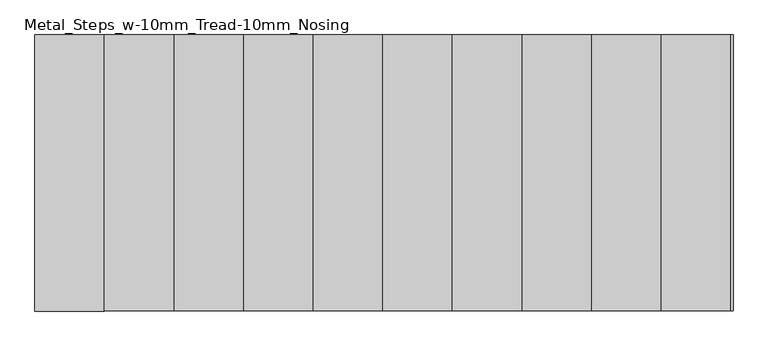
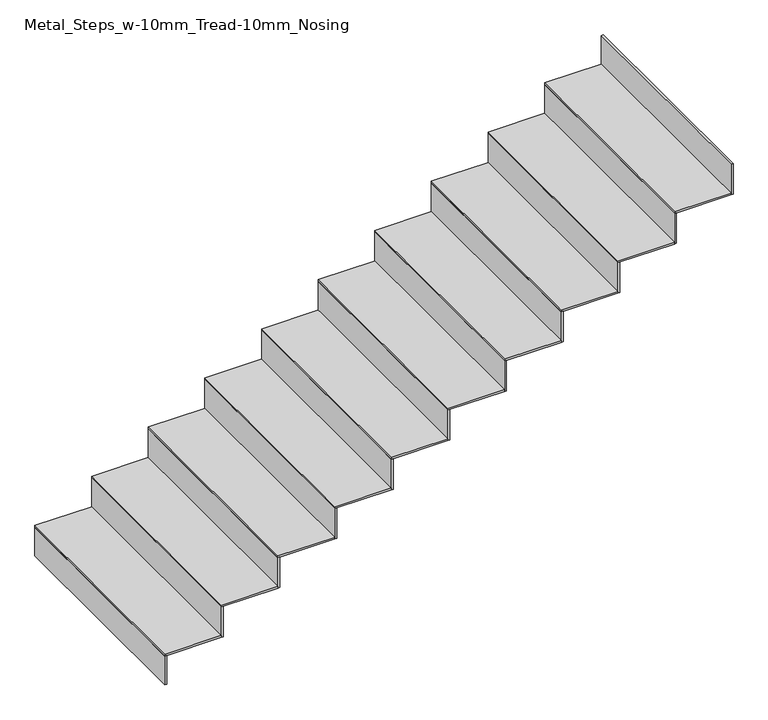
"""IFC4 building model written with IfcOpenShell, lengths in millimetres: stair flight geometry, Metal_Steps_w-10mm_Tread-10mm_Nosing."""

from ifc_helpers import new_model, si_unit, frame, origin, place, context, project, spatial, polyline, outline, extrude, source, transform, mapped, element, save


def metal_steps_w_10mm_tread_10mm_nosing_9ce4fc9e(model_context):
    return source(origin(), model_context, "Body", "SweptSolid", [
        extrude(outline(polyline([(-791.4958562, -4544.3473686), (-801.4958562, -4544.3473686), (-801.4958562, -3354.3473686), (-791.4958562, -3354.3473686), (-791.4958562, -4544.3473686)])), frame((0.0, 0.0, 15010.0), z_axis=(0.0, 0.0, 1.0), x_axis=(1.0, 0.0, 0.0)), (0.0, 0.0, 1.0), 160.4545455),
        extrude(outline(polyline([(-501.4958562, -3354.3473686), (-501.4958562, -4544.3473686), (-801.4958562, -4544.3473686), (-801.4958562, -3354.3473686), (-501.4958562, -3354.3473686)])), frame((0.0, 0.0, 15170.4545455), z_axis=(0.0, 0.0, 1.0), x_axis=(1.0, 0.0, 0.0)), (0.0, 0.0, 1.0), 10.0),
        extrude(outline(polyline([(-491.4958562, -4544.3473686), (-501.4958562, -4544.3473686), (-501.4958562, -3354.3473686), (-491.4958562, -3354.3473686), (-491.4958562, -4544.3473686)])), frame((0.0, 0.0, 15170.4545455), z_axis=(0.0, 0.0, 1.0), x_axis=(1.0, 0.0, 0.0)), (0.0, 0.0, 1.0), 170.4545455),
        extrude(outline(polyline([(-201.4958562, -3354.3473686), (-201.4958562, -4544.3473686), (-501.4958562, -4544.3473686), (-501.4958562, -3354.3473686), (-201.4958562, -3354.3473686)])), frame((0.0, 0.0, 15340.9090909), z_axis=(0.0, 0.0, 1.0), x_axis=(1.0, 0.0, 0.0)), (0.0, 0.0, 1.0), 10.0),
        extrude(outline(polyline([(-191.4958562, -4544.3473686), (-201.4958562, -4544.3473686), (-201.4958562, -3354.3473686), (-191.4958562, -3354.3473686), (-191.4958562, -4544.3473686)])), frame((0.0, 0.0, 15340.9090909), z_axis=(0.0, 0.0, 1.0), x_axis=(1.0, 0.0, 0.0)), (0.0, 0.0, 1.0), 170.4545455),
        extrude(outline(polyline([(98.5041438, -3354.3473686), (98.5041438, -4544.3473686), (-201.4958562, -4544.3473686), (-201.4958562, -3354.3473686), (98.5041438, -3354.3473686)])), frame((0.0, 0.0, 15511.3636364), z_axis=(0.0, 0.0, 1.0), x_axis=(1.0, 0.0, 0.0)), (0.0, 0.0, 1.0), 10.0),
        extrude(outline(polyline([(108.5041438, -4544.3473686), (98.5041438, -4544.3473686), (98.5041438, -3354.3473686), (108.5041438, -3354.3473686), (108.5041438, -4544.3473686)])), frame((0.0, 0.0, 15511.3636364), z_axis=(0.0, 0.0, 1.0), x_axis=(1.0, 0.0, 0.0)), (0.0, 0.0, 1.0), 170.4545455),
        extrude(outline(polyline([(398.5041438, -3354.3473686), (398.5041438, -4544.3473686), (98.5041438, -4544.3473686), (98.5041438, -3354.3473686), (398.5041438, -3354.3473686)])), frame((0.0, 0.0, 15681.8181818), z_axis=(0.0, 0.0, 1.0), x_axis=(1.0, 0.0, 0.0)), (0.0, 0.0, 1.0), 10.0),
        extrude(outline(polyline([(408.5041438, -4544.3473686), (398.5041438, -4544.3473686), (398.5041438, -3354.3473686), (408.5041438, -3354.3473686), (408.5041438, -4544.3473686)])), frame((0.0, 0.0, 15681.8181818), z_axis=(0.0, 0.0, 1.0), x_axis=(1.0, 0.0, 0.0)), (0.0, 0.0, 1.0), 170.4545455),
        extrude(outline(polyline([(698.5041438, -3354.3473686), (698.5041438, -4544.3473686), (398.5041438, -4544.3473686), (398.5041438, -3354.3473686), (698.5041438, -3354.3473686)])), frame((0.0, 0.0, 15852.2727273), z_axis=(0.0, 0.0, 1.0), x_axis=(1.0, 0.0, 0.0)), (0.0, 0.0, 1.0), 10.0),
        extrude(outline(polyline([(708.5041438, -4544.3473686), (698.5041438, -4544.3473686), (698.5041438, -3354.3473686), (708.5041438, -3354.3473686), (708.5041438, -4544.3473686)])), frame((0.0, 0.0, 15852.2727273), z_axis=(0.0, 0.0, 1.0), x_axis=(1.0, 0.0, 0.0)), (0.0, 0.0, 1.0), 170.4545455),
        extrude(outline(polyline([(998.5041438, -3354.3473686), (998.5041438, -4544.3473686), (698.5041438, -4544.3473686), (698.5041438, -3354.3473686), (998.5041438, -3354.3473686)])), frame((0.0, 0.0, 16022.7272727), z_axis=(0.0, 0.0, 1.0), x_axis=(1.0, 0.0, 0.0)), (0.0, 0.0, 1.0), 10.0),
        extrude(outline(polyline([(1008.5041438, -4544.3473686), (998.5041438, -4544.3473686), (998.5041438, -3354.3473686), (1008.5041438, -3354.3473686), (1008.5041438, -4544.3473686)])), frame((0.0, 0.0, 16022.7272727), z_axis=(0.0, 0.0, 1.0), x_axis=(1.0, 0.0, 0.0)), (0.0, 0.0, 1.0), 170.4545455),
        extrude(outline(polyline([(1298.5041438, -3354.3473686), (1298.5041438, -4544.3473686), (998.5041438, -4544.3473686), (998.5041438, -3354.3473686), (1298.5041438, -3354.3473686)])), frame((0.0, 0.0, 16193.1818182), z_axis=(0.0, 0.0, 1.0), x_axis=(1.0, 0.0, 0.0)), (0.0, 0.0, 1.0), 10.0),
        extrude(outline(polyline([(1308.5041438, -4544.3473686), (1298.5041438, -4544.3473686), (1298.5041438, -3354.3473686), (1308.5041438, -3354.3473686), (1308.5041438, -4544.3473686)])), frame((0.0, 0.0, 16193.1818182), z_axis=(0.0, 0.0, 1.0), x_axis=(1.0, 0.0, 0.0)), (0.0, 0.0, 1.0), 170.4545455),
        extrude(outline(polyline([(1598.5041438, -3354.3473686), (1598.5041438, -4544.3473686), (1298.5041438, -4544.3473686), (1298.5041438, -3354.3473686), (1598.5041438, -3354.3473686)])), frame((0.0, 0.0, 16363.6363636), z_axis=(0.0, 0.0, 1.0), x_axis=(1.0, 0.0, 0.0)), (0.0, 0.0, 1.0), 10.0),
        extrude(outline(polyline([(1608.5041438, -4544.3473686), (1598.5041438, -4544.3473686), (1598.5041438, -3354.3473686), (1608.5041438, -3354.3473686), (1608.5041438, -4544.3473686)])), frame((0.0, 0.0, 16363.6363636), z_axis=(0.0, 0.0, 1.0), x_axis=(1.0, 0.0, 0.0)), (0.0, 0.0, 1.0), 170.4545455),
        extrude(outline(polyline([(1898.5041438, -3354.3473686), (1898.5041438, -4544.3473686), (1598.5041438, -4544.3473686), (1598.5041438, -3354.3473686), (1898.5041438, -3354.3473686)])), frame((0.0, 0.0, 16534.0909091), z_axis=(0.0, 0.0, 1.0), x_axis=(1.0, 0.0, 0.0)), (0.0, 0.0, 1.0), 10.0),
        extrude(outline(polyline([(1908.5041438, -4544.3473686), (1898.5041438, -4544.3473686), (1898.5041438, -3354.3473686), (1908.5041438, -3354.3473686), (1908.5041438, -4544.3473686)])), frame((0.0, 0.0, 16534.0909091), z_axis=(0.0, 0.0, 1.0), x_axis=(1.0, 0.0, 0.0)), (0.0, 0.0, 1.0), 170.4545455),
        extrude(outline(polyline([(2208.5041438, -4544.3473686), (2198.5041438, -4544.3473686), (2198.5041438, -3354.3473686), (2208.5041438, -3354.3473686), (2208.5041438, -4544.3473686)])), frame((0.0, 0.0, 16704.5454545), z_axis=(0.0, 0.0, 1.0), x_axis=(1.0, 0.0, 0.0)), (0.0, 0.0, 1.0), 170.4545455),
        extrude(outline(polyline([(2198.5041438, -3354.3473686), (2198.5041438, -4544.3473686), (1898.5041438, -4544.3473686), (1898.5041438, -3354.3473686), (2198.5041438, -3354.3473686)])), frame((0.0, 0.0, 16704.5454545), z_axis=(0.0, 0.0, 1.0), x_axis=(1.0, 0.0, 0.0)), (0.0, 0.0, 1.0), 10.0),
    ])


if __name__ == "__main__":
    model = new_model("IFC4")
    model_context = context("Model", 3, world=origin())
    ifc_project = project(units=[si_unit("LENGTHUNIT", "METRE", prefix="MILLI")], contexts=[model_context])
    site = spatial("IfcSite", under=ifc_project)
    building = spatial("IfcBuilding", under=site)
    placement = place(None, origin())
    metal_steps_w_10mm_tread_10mm_nosing_shape = metal_steps_w_10mm_tread_10mm_nosing_9ce4fc9e(model_context)
    element("IfcStairFlight", 1, ObjectType="Metal_Steps_w-10mm_Tread-10mm_Nosing", at=placement, inside=building, context=model_context, shape_type="MappedRepresentation", body=[
        mapped(metal_steps_w_10mm_tread_10mm_nosing_shape, transform((0.0, 0.0, 0.0), x_axis=(1.0, 0.0, 0.0), y_axis=(0.0, 1.0, 0.0), z_axis=(0.0, 0.0, 1.0))),
    ])
    save(model, "model.ifc")
